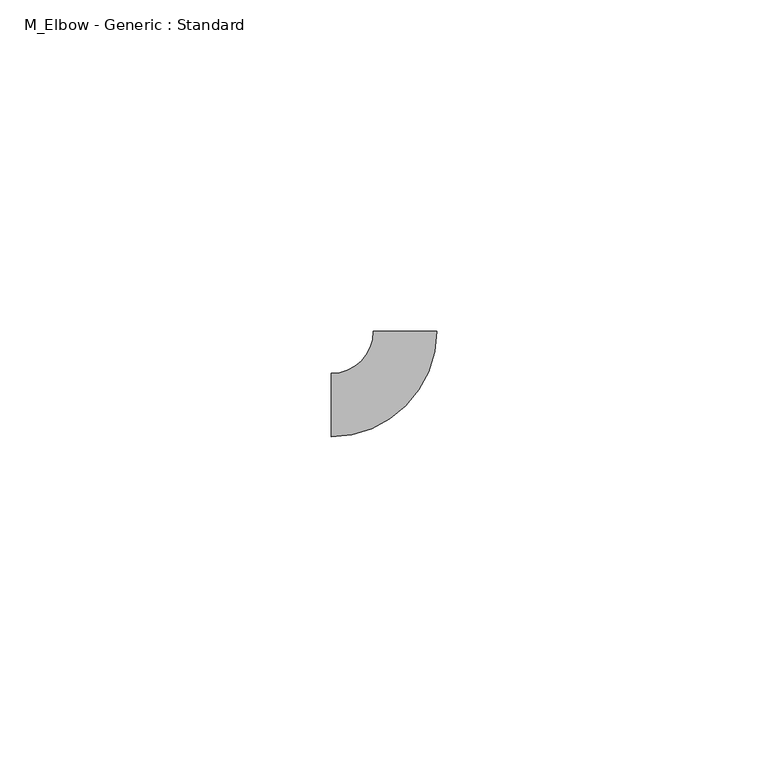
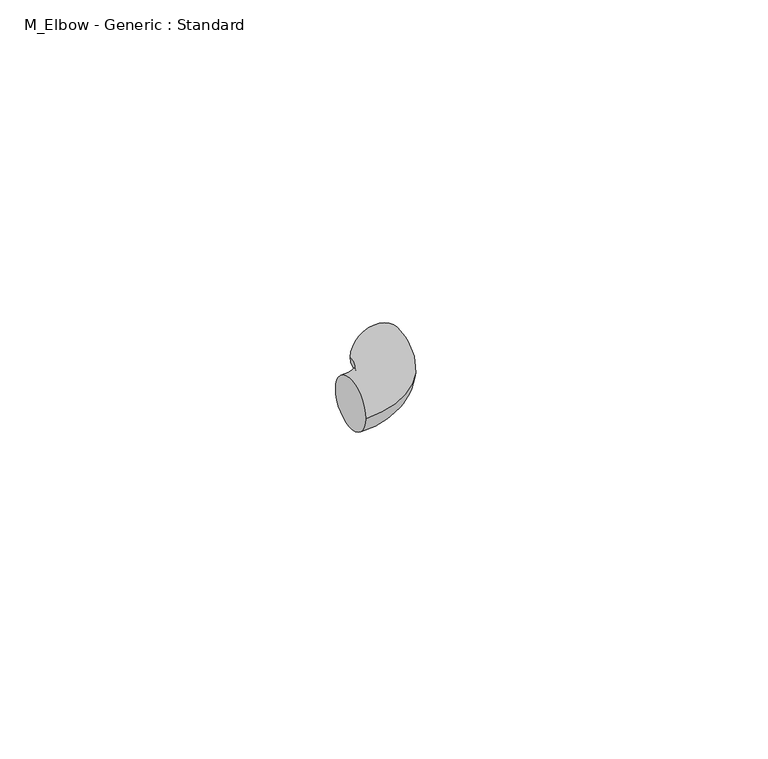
"""IFC4 building model written with IfcOpenShell, lengths in millimetres: pipe fitting geometry, M_Elbow - Generic : Standard."""

from ifc_helpers import new_model, si_unit, point, frame, origin, place, context, project, spatial, circle_curve, ellipse_curve, trimmed, source, transform, mapped, element, save
from ifc_brep_helpers import plane_surface, revolved_surface, advanced_brep


def m_elbow_generic_standard_c297e379(model_context):
    return source(origin(), model_context, "Body", "AdvancedBrep", [
        advanced_brep(
        [(-11.1110513, -4.7625, 0.0), (-11.1110513, 4.7625, 0.0), (4.7639486, 11.1104303, 0.0), (-4.7610514, 11.1116721, 0.0)],
        [
            (0, 1, circle_curve(frame((-11.1110513, 0.0, 0.0), z_axis=(-1.0, 0.0, 0.0), x_axis=(0.0, 1.0, 0.0)), 4.7625)),
            (1, 0, circle_curve(frame((-11.1110513, 0.0, 0.0), z_axis=(-1.0, 0.0, 0.0), x_axis=(0.0, 1.0, 0.0)), 4.7625)),
            (2, 3, circle_curve(frame((0.0014486, 11.1110512, 0.0), z_axis=(0.00013037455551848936, 0.9999999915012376, 0.0), x_axis=(-0.9999999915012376, 0.00013037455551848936, 0.0)), 4.7625)),
            (3, 2, circle_curve(frame((0.0014486, 11.1110512, 0.0), z_axis=(0.00013037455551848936, 0.9999999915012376, 0.0), x_axis=(-0.9999999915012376, 0.00013037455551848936, 0.0)), 4.7625)),
            (3, 1, circle_curve(frame((-11.1110513, 11.1125, 0.0), z_axis=(0.0, 0.0, -1.0), x_axis=(0.0, -1.0, 0.0)), 6.35)),
            (0, 2, circle_curve(frame((-11.1110513, 11.1125, 0.0), z_axis=(0.0, 0.0, 1.0), x_axis=(0.0, -1.0, 0.0)), 15.875)),
        ],
        [
            plane_surface(frame((-11.1110513, 0.0, 0.0), z_axis=(-1.0, 0.0, 0.0), x_axis=(0.0, 0.0, 1.0))),
            plane_surface(frame((0.0014486, 11.1110512, 0.0), z_axis=(0.00013037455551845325, 0.9999999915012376, 0.0), x_axis=(0.0, 0.0, 1.0))),
            revolved_surface(trimmed(ellipse_curve(frame((-11.1110513, 0.0, 0.0), z_axis=(-1.0, 0.0, 0.0), x_axis=(0.0, 1.0, 0.0)), 4.7625, 4.7625), [point((-11.1110513, -4.7625, 0.0))], [point((-11.1110513, 4.7625, 0.0))], True, "CARTESIAN"), (-11.1110513, 11.1125, 0.0), (0.0, 0.0, 1.0)),
            revolved_surface(trimmed(ellipse_curve(frame((-11.1110513, 0.0, 0.0), z_axis=(-1.0, 0.0, 0.0), x_axis=(0.0, 1.0, 0.0)), 4.7625, 4.7625), [point((-11.1110513, 4.7625, 0.0))], [point((-11.1110513, -4.7625, 0.0))], True, "CARTESIAN"), (-11.1110513, 11.1125, 0.0), (0.0, 0.0, 1.0)),
        ],
        [
            (0, [[1, 2]]),
            (1, [[3, 4]]),
            (2, [[5, -1, 6, -4]]),
            (3, [[-6, -2, -5, -3]]),
        ],
    ),
    ])


if __name__ == "__main__":
    model = new_model("IFC4")
    model_context = context("Model", 3, world=origin())
    ifc_project = project(units=[si_unit("LENGTHUNIT", "METRE", prefix="MILLI")], contexts=[model_context])
    site = spatial("IfcSite", under=ifc_project)
    building = spatial("IfcBuilding", under=site)
    placement = place(None, origin())
    m_elbow_generic_standard_shape = m_elbow_generic_standard_c297e379(model_context)
    element("IfcPipeFitting", 1, ObjectType="M_Elbow - Generic : Standard", at=placement, inside=building, context=model_context, shape_type="MappedRepresentation", body=[
        mapped(m_elbow_generic_standard_shape, transform((0.0, 0.0, 0.0), x_axis=(1.0, 0.0, 0.0), y_axis=(0.0, 1.0, 0.0), z_axis=(0.0, 0.0, 1.0))),
    ])
    save(model, "model.ifc")
